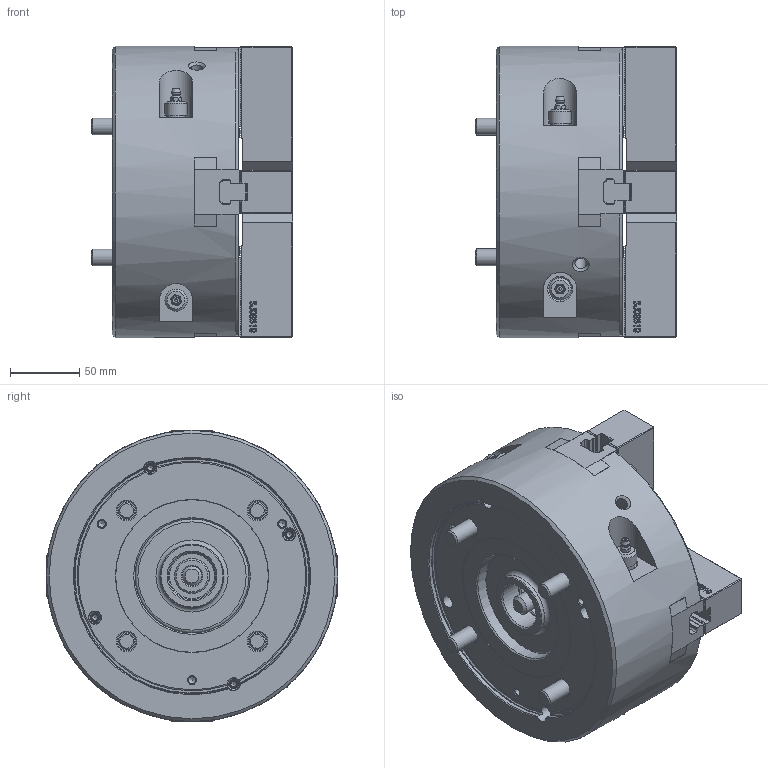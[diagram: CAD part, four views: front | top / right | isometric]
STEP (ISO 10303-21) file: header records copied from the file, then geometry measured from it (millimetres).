
FILE_DESCRIPTION (( 'STEP AP214' ), '1' );
FILE_NAME ('DT1_HW-08_OUTSIDE_VIEW_HCL.STEP', '2024-05-09T23:23:15', ( '' ), ( '' ), 'SwSTEP 2.0', 'SolidWorks 2022', '' );
FILE_SCHEMA (( 'AUTOMOTIVE_DESIGN' ));
Length unit declared in the file: millimetre
Products named in the file (11): DT1_HW-08_M12x90^DT1_HW-08_ﾃﾞﾌｫﾙﾄ; DT1_HW08_DRAWSCREW^DT1_HW-08_ﾃﾞﾌｫﾙﾄ; DT1_HW-08_BASE^DT1_HW-08_ﾃﾞﾌｫﾙﾄ; DT1_HW-08_M10x25^DT1_HW-08_ﾃﾞﾌｫﾙﾄ; DT1_HW-08_COVER^DT1_HW-08_ﾃﾞﾌｫﾙﾄ; DT1_HW-08_SOFTJAW^DT1_HW-08_ﾃﾞﾌｫﾙﾄ; DT1_HW-08_M5x10^DT1_HW-08_ﾃﾞﾌｫﾙﾄ; Copy of 0080010810^DT1_HW-08_ﾃﾞﾌｫﾙﾄ; DT1_HW-08_OUTSIDE_VIEW_HCL; DT1_HW-08_TNUT^DT1_HW-08_ﾃﾞﾌｫﾙﾄ; DT1_HW-08_DN^DT1_HW-08_ﾃﾞﾌｫﾙﾄ
Assembly tree (29 placements, depth 2):
  DT1_HW-08_OUTSIDE_VIEW_HCL
    DT1_HW-08_SOFTJAW^DT1_HW-08_ﾃﾞﾌｫﾙﾄ  x4
    DT1_HW-08_TNUT^DT1_HW-08_ﾃﾞﾌｫﾙﾄ  x4
    DT1_HW-08_COVER^DT1_HW-08_ﾃﾞﾌｫﾙﾄ
    DT1_HW08_DRAWSCREW^DT1_HW-08_ﾃﾞﾌｫﾙﾄ
    DT1_HW-08_BASE^DT1_HW-08_ﾃﾞﾌｫﾙﾄ
    DT1_HW-08_DN^DT1_HW-08_ﾃﾞﾌｫﾙﾄ
    DT1_HW-08_M12x90^DT1_HW-08_ﾃﾞﾌｫﾙﾄ  x4
    DT1_HW-08_M10x25^DT1_HW-08_ﾃﾞﾌｫﾙﾄ  x8
    DT1_HW-08_M5x10^DT1_HW-08_ﾃﾞﾌｫﾙﾄ  x4
    Copy of 0080010810^DT1_HW-08_ﾃﾞﾌｫﾙﾄ
Bounding box: 145 x 210 x 210 mm (x, y, z)
Volume: 3249833.4 mm3; surface area: 340981.6 mm2
Topology: 29 solids, 37 shells, 4994 faces, 14040 edges, 9277 vertices
Faces by surface type: plane 3238, cylinder 891, bspline 560, cone 264, torus 37, sphere 4
Full cylindrical faces by diameter (mm): 2 x4, 4.2 x4, 5 x7, 5.5 x4, 6 x1, 6.8 x4, 8 x1, 8.5 x2, 8.6 x8, 9.5 x8, 10 x12, 11 x8, 12 x5, 12.2 x1, 13.5 x8, 14 x2, 16 x4, 16.1 x4, 16.27 x8, 17 x8, 18.27 x4, 20 x4, 21 x2, 25 x1, 32.376 x1, 34 x1, 35 x2, 46 x1, 82 x1, 110 x1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
Entity records: 105789 total; most frequent: CARTESIAN_POINT 31636, ORIENTED_EDGE 16632, DIRECTION 12981, EDGE_CURVE 8316, LINE 6037, VECTOR 6037, VERTEX_POINT 5587, AXIS2_PLACEMENT_3D 3472
